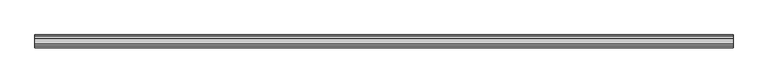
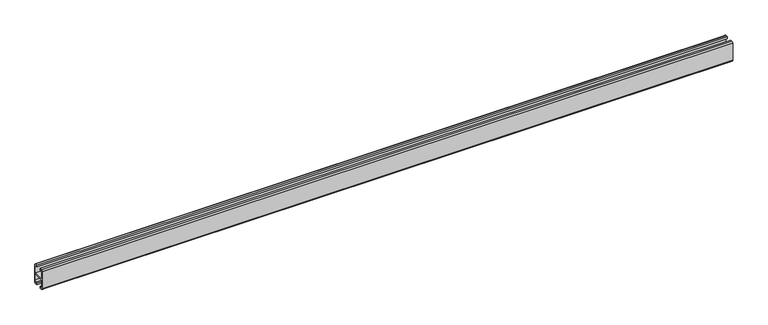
"""IFC4 building model written with IfcOpenShell, lengths in millimetres: proxy geometry, Kwiktrak Rail Straight- ARJO - Revit2017 - REV0 : 200.12810."""

from ifc_helpers import new_model, si_unit, point, frame, frame_2d, origin, place, context, project, spatial, polyline, circle_curve, trimmed, segment, composite_curve, outline, extrude, source, transform, mapped, element, save


def specialty_equipment_e541dc9b(model_context):
    return source(origin(), model_context, "Body", "SweptSolid", [
        extrude(outline(composite_curve([segment(polyline([(24.5, 40.0), (24.5, 67.4942258), (21.0, 75.0), (12.5, 75.0), (12.5, 82.5), (21.5, 82.5)]), True, "CONTINUOUS"), segment(trimmed(circle_curve(frame_2d((21.5, 76.5)), 6.0), [point((21.5, 82.5))], [point((27.5, 76.5))], False, "CARTESIAN"), True, "CONTINUOUS"), segment(polyline([(27.5, 76.5), (27.5, -1.5)]), True, "CONTINUOUS"), segment(trimmed(circle_curve(frame_2d((21.5, -1.5)), 6.0), [point((27.5, -1.5))], [point((21.5, -7.5))], False, "CARTESIAN"), True, "CONTINUOUS"), segment(polyline([(21.5, -7.5), (12.5, -7.5), (12.5, 0.0), (21.0, 0.0), (24.5, 7.5057742), (24.5, 35.0), (-24.5, 35.0), (-24.5, 7.5057742), (-21.0, 0.0), (-12.5, 0.0), (-12.5, -7.5), (-21.5, -7.5)]), True, "CONTINUOUS"), segment(trimmed(circle_curve(frame_2d((-21.5, -1.5)), 6.0), [point((-21.5, -7.5))], [point((-27.5, -1.5))], False, "CARTESIAN"), True, "CONTINUOUS"), segment(polyline([(-27.5, -1.5), (-27.5, 76.5)]), True, "CONTINUOUS"), segment(trimmed(circle_curve(frame_2d((-21.5, 76.5)), 6.0), [point((-27.5, 76.5))], [point((-21.5, 82.5))], False, "CARTESIAN"), True, "CONTINUOUS"), segment(polyline([(-21.5, 82.5), (-12.5, 82.5), (-12.5, 75.0), (-21.0, 75.0), (-24.5, 67.4942258), (-24.5, 40.0), (24.5, 40.0)]), True, "CONTINUOUS")], self_intersect=False)), frame((-1500.0, 0.0, 0.0), z_axis=(1.0, 0.0, 0.0), x_axis=(0.0, 1.0, 0.0)), (0.0, 0.0, 1.0), 3000.0),
    ])


if __name__ == "__main__":
    model = new_model("IFC4")
    model_context = context("Model", 3, world=origin())
    ifc_project = project(units=[si_unit("LENGTHUNIT", "METRE", prefix="MILLI")], contexts=[model_context])
    site = spatial("IfcSite", under=ifc_project)
    building = spatial("IfcBuilding", under=site)
    placement = place(None, origin())
    specialty_equipment_shape = specialty_equipment_e541dc9b(model_context)
    element("IfcBuildingElementProxy", 1, Name="Kwiktrak Rail Straight- ARJO - Revit2017 - REV0 : 200.12810", ObjectType="Kwiktrak Rail Straight- ARJO - Revit2017 - REV0 : 200.12810", at=placement, inside=building, context=model_context, shape_type="MappedRepresentation", body=[
        mapped(specialty_equipment_shape, transform((0.0, 0.0, 0.0), x_axis=(1.0, 0.0, 0.0), y_axis=(0.0, 1.0, 0.0), z_axis=(0.0, 0.0, 1.0))),
    ])
    save(model, "model.ifc")
